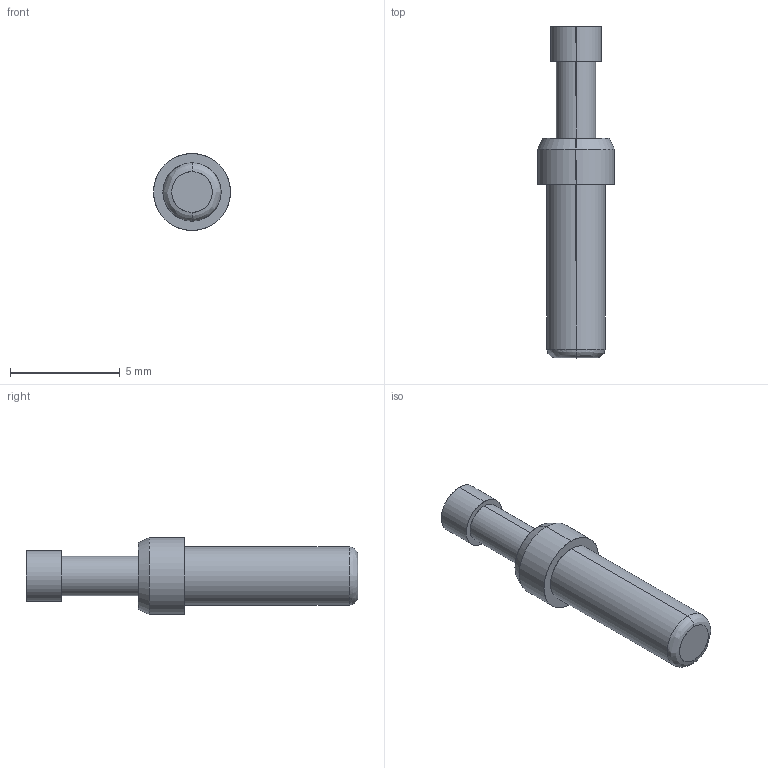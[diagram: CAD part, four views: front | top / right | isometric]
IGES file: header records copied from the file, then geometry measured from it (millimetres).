
Start section: SolidWorks IGES file using analytic representation for surfaces
Global section: file name: F:\OneDrive\Desktop\Coda\28.6\Front Fitment Completed\PC8 Series RTP\PC8F-090.IGS; native system: SolidWorks 2021; preprocessor: SolidWorks 2021; author: Georg; date: 210712.160324; units: millimetre
Bounding box: 3.5 x 15.1 x 3.5 mm (x, y, z)
Surface area: 138.9 mm2 (no closed solid volume)
Topology: 0 solids, 0 shells, 17 faces, 288 edges, 288 vertices
Faces by surface type: revolution 10, bspline 7
